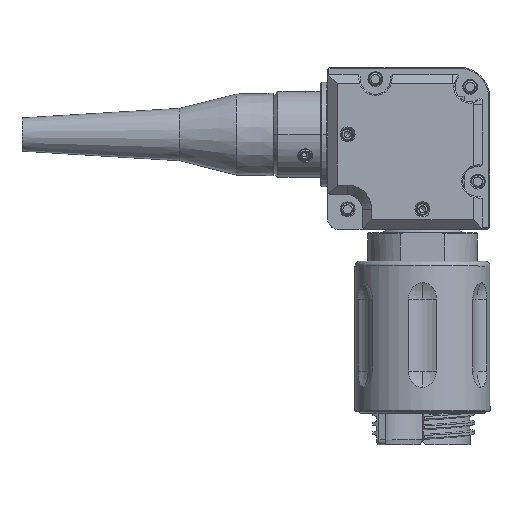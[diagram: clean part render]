
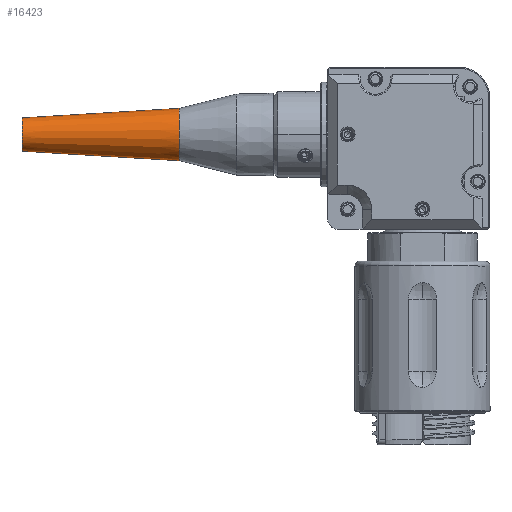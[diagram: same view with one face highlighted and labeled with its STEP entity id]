
A CAD part, top view. The second image highlights one B-rep face of the part: STEP entity #16423.
In plain terms, the highlighted conical face has half-angle 3.468 degrees and reference radius 3.5 mm.
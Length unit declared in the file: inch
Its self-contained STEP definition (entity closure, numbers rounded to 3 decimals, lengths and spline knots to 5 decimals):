
#1755 = VERTEX_POINT ( 'NONE', #10119 ) ;
#3481 = VERTEX_POINT ( 'NONE', #21991 ) ;
#5146 = CARTESIAN_POINT ( 'NONE',  ( -3.31004, -0.44783, -2.56348 ) ) ;
#5418 = EDGE_LOOP ( 'NONE', ( #45696, #36245, #29472, #11594 ) ) ;
#5769 = EDGE_CURVE ( 'NONE', #25503, #23809, #17735, .T. ) ;
#7341 = VECTOR ( 'NONE', #34299, 39.37008 ) ;
#7865 = CIRCLE ( 'NONE', #49295, 0.21654 ) ;
#10119 = CARTESIAN_POINT ( 'NONE',  ( -2.01083, -0.80217, -2.56348 ) ) ;
#11594 = ORIENTED_EDGE ( 'NONE', *, *, #35922, .F. ) ;
#13514 = CARTESIAN_POINT ( 'NONE',  ( -3.31004, -0.58563, -2.56348 ) ) ;
#16423 = ADVANCED_FACE ( 'NONE', ( #23561 ), #25499, .T. ) ;
#17735 = LINE ( 'NONE', #48357, #41464 ) ;
#20437 = LINE ( 'NONE', #29397, #7341 ) ;
#21991 = CARTESIAN_POINT ( 'NONE',  ( -3.31004, -0.72343, -2.56348 ) ) ;
#22354 = EDGE_CURVE ( 'NONE', #3481, #1755, #20437, .T. ) ;
#23561 = FACE_OUTER_BOUND ( 'NONE', #5418, .T. ) ;
#23809 = VERTEX_POINT ( 'NONE', #27669 ) ;
#23850 = DIRECTION ( 'NONE',  ( 1., 0., 0. ) ) ;
#25499 = CONICAL_SURFACE ( 'NONE', #29194, 0.1378, 0.061 ) ;
#25503 = VERTEX_POINT ( 'NONE', #5146 ) ;
#27669 = CARTESIAN_POINT ( 'NONE',  ( -2.01083, -0.36909, -2.56348 ) ) ;
#28518 = DIRECTION ( 'NONE',  ( 1., 0., 0. ) ) ;
#29087 = CARTESIAN_POINT ( 'NONE',  ( -2.01083, -0.58563, -2.56348 ) ) ;
#29194 = AXIS2_PLACEMENT_3D ( 'NONE', #45816, #23850, #41487 ) ;
#29397 = CARTESIAN_POINT ( 'NONE',  ( -3.31004, -0.72343, -2.56348 ) ) ;
#29472 = ORIENTED_EDGE ( 'NONE', *, *, #22354, .T. ) ;
#30714 = EDGE_CURVE ( 'NONE', #25503, #3481, #49053, .T. ) ;
#31133 = DIRECTION ( 'NONE',  ( 0., -1., 0. ) ) ;
#33409 = AXIS2_PLACEMENT_3D ( 'NONE', #13514, #44697, #31133 ) ;
#34299 = DIRECTION ( 'NONE',  ( 0.998, -0.06, 0. ) ) ;
#35922 = EDGE_CURVE ( 'NONE', #23809, #1755, #7865, .T. ) ;
#36245 = ORIENTED_EDGE ( 'NONE', *, *, #30714, .T. ) ;
#39402 = DIRECTION ( 'NONE',  ( 0.998, 0.06, 0. ) ) ;
#41464 = VECTOR ( 'NONE', #39402, 39.37008 ) ;
#41487 = DIRECTION ( 'NONE',  ( 0., -1., 0. ) ) ;
#44697 = DIRECTION ( 'NONE',  ( 1., 0., 0. ) ) ;
#45696 = ORIENTED_EDGE ( 'NONE', *, *, #5769, .F. ) ;
#45816 = CARTESIAN_POINT ( 'NONE',  ( -3.31004, -0.58563, -2.56348 ) ) ;
#46696 = DIRECTION ( 'NONE',  ( 0., -1., 0. ) ) ;
#48357 = CARTESIAN_POINT ( 'NONE',  ( -3.31004, -0.44783, -2.56348 ) ) ;
#49053 = CIRCLE ( 'NONE', #33409, 0.1378 ) ;
#49295 = AXIS2_PLACEMENT_3D ( 'NONE', #29087, #28518, #46696 ) ;
